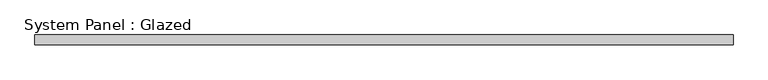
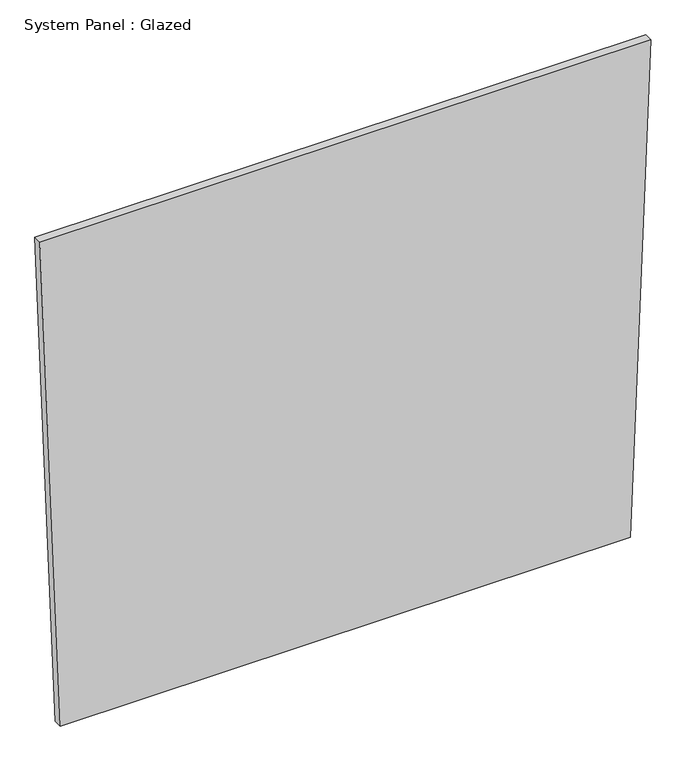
"""IFC4 building model written with IfcOpenShell, lengths in millimetres: plate geometry, System Panel : Glazed."""

from ifc_helpers import new_model, si_unit, frame, origin, place, context, project, spatial, polyline, outline, extrude, source, transform, mapped, element, save


def system_panel_glazed_fd0177c3(model_context):
    return source(origin(), model_context, "Body", "SweptSolid", [
        extrude(outline(polyline([(0.0, -823.8744702), (0.0, 823.874453), (1498.821899, 883.3128002), (1498.821899, -883.3128002), (0.0, -823.8744702)])), frame((0.0, -49.5, 0.0), z_axis=(0.0, 1.0, 0.0), x_axis=(0.0, 0.0, 1.0)), (0.0, 0.0, 1.0), 25.0),
    ])


if __name__ == "__main__":
    model = new_model("IFC4")
    model_context = context("Model", 3, world=origin())
    ifc_project = project(units=[si_unit("LENGTHUNIT", "METRE", prefix="MILLI")], contexts=[model_context])
    site = spatial("IfcSite", under=ifc_project)
    building = spatial("IfcBuilding", under=site)
    placement = place(None, origin())
    system_panel_glazed_shape = system_panel_glazed_fd0177c3(model_context)
    element("IfcPlate", 1, ObjectType="System Panel : Glazed", at=placement, inside=building, context=model_context, shape_type="MappedRepresentation", body=[
        mapped(system_panel_glazed_shape, transform((0.0, 0.0, 0.0), x_axis=(1.0, 0.0, 0.0), y_axis=(0.0, 1.0, 0.0), z_axis=(0.0, 0.0, 1.0))),
    ])
    save(model, "model.ifc")
